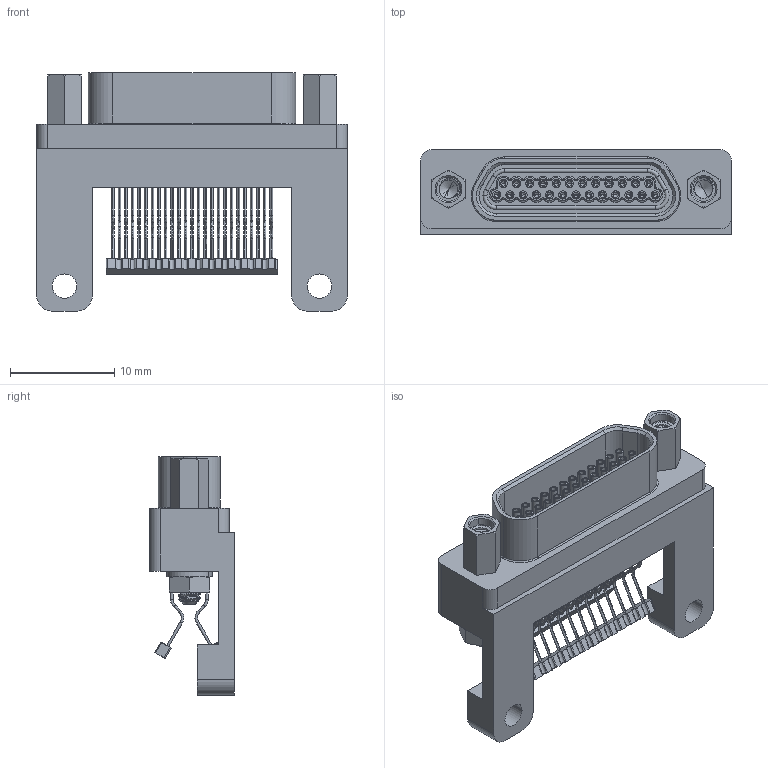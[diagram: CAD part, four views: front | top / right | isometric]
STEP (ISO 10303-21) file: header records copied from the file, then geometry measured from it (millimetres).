
FILE_DESCRIPTION (( 'STEP AP214' ), '1' );
FILE_NAME ('A99801-025 REV A.STEP', '2021-02-05T18:14:47', ( '' ), ( '' ), 'SwSTEP 2.0', 'SolidWorks 2019', '' );
FILE_SCHEMA (( 'AUTOMOTIVE_DESIGN' ));
Length unit declared in the file: inch
Products named in the file (1): A99801-025 REV A
Bounding box: 29.84 x 8.14 x 22.91 mm (x, y, z)
Volume: 2017.5 mm3; surface area: 3367.1 mm2
Topology: 1 solids, 4 shells, 1373 faces, 3369 edges, 2072 vertices
Faces by surface type: cylinder 632, plane 343, torus 213, cone 113, bspline 72
Entity records: 69476 total; most frequent: CARTESIAN_POINT 19404, DIRECTION 6977, ORIENTED_EDGE 6618, EDGE_CURVE 3309, AXIS2_PLACEMENT_3D 2797, VERTEX_POINT 2072, EDGE_LOOP 1561, CIRCLE 1495
